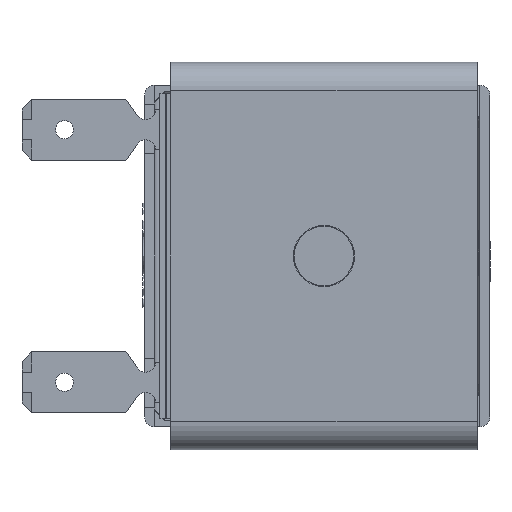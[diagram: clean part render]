
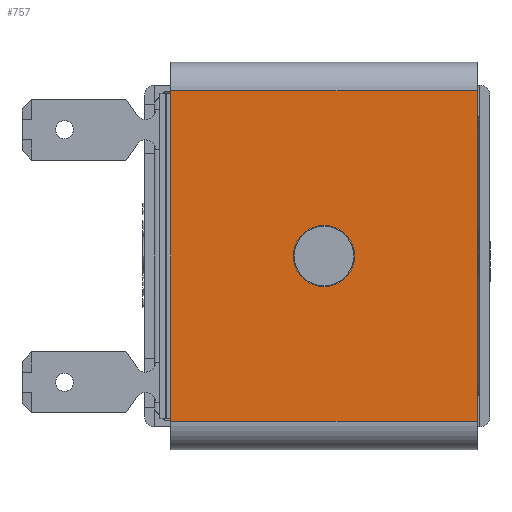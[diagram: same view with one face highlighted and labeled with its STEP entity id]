
A CAD part, front view. The second image highlights one B-rep face of the part: STEP entity #757.
In plain terms, the highlighted planar face has unit normal (0, -1, 0).
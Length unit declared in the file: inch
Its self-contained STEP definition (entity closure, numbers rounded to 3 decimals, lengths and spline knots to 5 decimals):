
#557=CARTESIAN_POINT('',(0.469,0.0,0.506));
#558=VERTEX_POINT('',#557);
#566=CARTESIAN_POINT('',(0.469,0.,-0.506));
#567=VERTEX_POINT('',#566);
#568=CARTESIAN_POINT('',(0.469,0.0,0.506));
#569=DIRECTION('',(0.0,0.0,-1.0));
#570=VECTOR('',#569,1.012);
#571=LINE('',#568,#570);
#572=EDGE_CURVE('',#558,#567,#571,.T.);
#705=CARTESIAN_POINT('',(-0.469,0.,-0.506));
#706=VERTEX_POINT('',#705);
#707=CARTESIAN_POINT('',(-0.469,0.0,-0.506));
#708=DIRECTION('',(1.0,0.0,0.0));
#709=VECTOR('',#708,0.938);
#710=LINE('',#707,#709);
#711=EDGE_CURVE('',#706,#567,#710,.T.);
#723=CARTESIAN_POINT('',(0.,0.0,0.));
#724=DIRECTION('',(0.0,1.0,0.0));
#725=DIRECTION('',(0.0,0.0,1.0));
#726=AXIS2_PLACEMENT_3D('',#723,#724,#725);
#727=PLANE('',#726);
#728=ORIENTED_EDGE('',*,*,#711,.T.);
#729=ORIENTED_EDGE('',*,*,#572,.F.);
#730=CARTESIAN_POINT('',(-0.469,0.0,0.506));
#731=VERTEX_POINT('',#730);
#732=CARTESIAN_POINT('',(0.469,0.0,0.506));
#733=DIRECTION('',(-1.0,0.0,0.0));
#734=VECTOR('',#733,0.938);
#735=LINE('',#732,#734);
#736=EDGE_CURVE('',#558,#731,#735,.T.);
#737=ORIENTED_EDGE('',*,*,#736,.T.);
#738=CARTESIAN_POINT('',(-0.469,0.0,-0.506));
#739=DIRECTION('',(0.0,0.0,1.0));
#740=VECTOR('',#739,1.012);
#741=LINE('',#738,#740);
#742=EDGE_CURVE('',#706,#731,#741,.T.);
#743=ORIENTED_EDGE('',*,*,#742,.F.);
#744=EDGE_LOOP('',(#728,#729,#737,#743));
#745=FACE_OUTER_BOUND('',#744,.T.);
#746=CARTESIAN_POINT('',(0.0935,0.0,0.));
#747=VERTEX_POINT('',#746);
#748=CARTESIAN_POINT('',(0.0,0.0,0.0));
#749=DIRECTION('',(0.0,1.0,0.0));
#750=DIRECTION('',(-1.0,0.0,0.0));
#751=AXIS2_PLACEMENT_3D('',#748,#749,#750);
#752=CIRCLE('',#751,0.0935);
#753=EDGE_CURVE('',#747,#747,#752,.T.);
#754=ORIENTED_EDGE('',*,*,#753,.T.);
#755=EDGE_LOOP('',(#754));
#756=FACE_BOUND('',#755,.T.);
#757=ADVANCED_FACE('',(#745,#756),#727,.F.);
